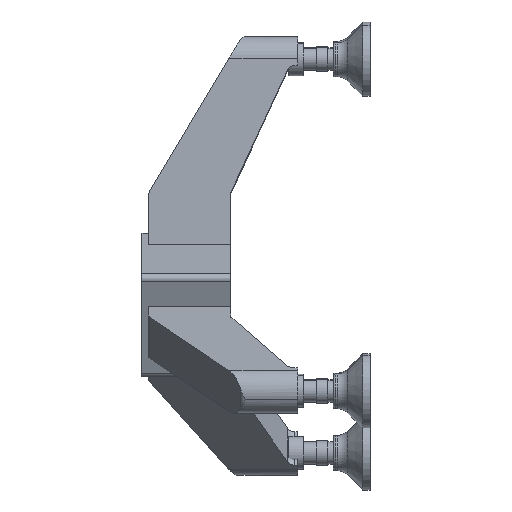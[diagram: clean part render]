
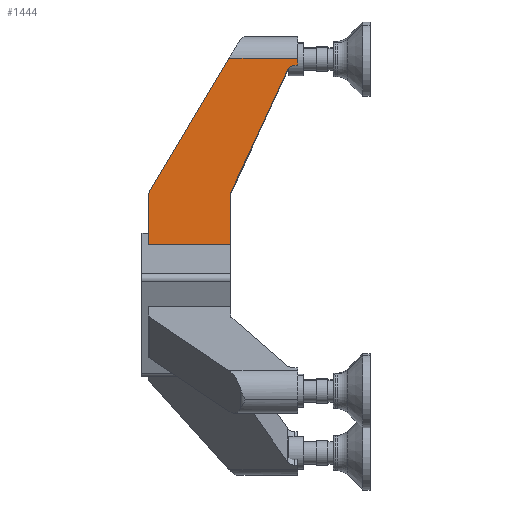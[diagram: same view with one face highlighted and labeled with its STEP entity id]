
A CAD part, left-side view. The second image highlights one B-rep face of the part: STEP entity #1444.
In plain terms, the highlighted planar face has unit normal (-1, 0, 0.025).
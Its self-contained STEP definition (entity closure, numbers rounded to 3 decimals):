
#29 = CARTESIAN_POINT ( 'NONE',  ( 98.312, 67.535, 208.765 ) ) ;
#170 = ORIENTED_EDGE ( 'NONE', *, *, #3434, .F. ) ;
#223 = ORIENTED_EDGE ( 'NONE', *, *, #923, .T. ) ;
#233 = CARTESIAN_POINT ( 'NONE',  ( 98.487, 123.648, 215.763 ) ) ;
#241 = EDGE_CURVE ( 'NONE', #2379, #3822, #2570, .T. ) ;
#256 = CARTESIAN_POINT ( 'NONE',  ( 95.644, 125., 101.798 ) ) ;
#312 = CARTESIAN_POINT ( 'NONE',  ( 97.191, 123.648, 163.816 ) ) ;
#326 = DIRECTION ( 'NONE',  ( 0.025, 0., 1. ) ) ;
#372 = EDGE_LOOP ( 'NONE', ( #3171, #3207, #2734, #223, #1764, #2774, #3923, #170, #3596, #2208 ) ) ;
#438 = CARTESIAN_POINT ( 'NONE',  ( 95.585, 199., 99.423 ) ) ;
#529 = AXIS2_PLACEMENT_3D ( 'NONE', #29, #1283, #1253 ) ;
#532 = DIRECTION ( 'NONE',  ( -0.025, 0., -1. ) ) ;
#578 = DIRECTION ( 'NONE',  ( -0.021, 0.512, -0.859 ) ) ;
#582 = CARTESIAN_POINT ( 'NONE',  ( 94.468, 125., 54.656 ) ) ;
#648 = VERTEX_POINT ( 'NONE', #1566 ) ;
#737 = CARTESIAN_POINT ( 'NONE',  ( 98.636, 65., 221.761 ) ) ;
#774 = VECTOR ( 'NONE', #3267, 1000. ) ;
#789 = CARTESIAN_POINT ( 'NONE',  ( 95.644, 125., 101.798 ) ) ;
#798 = EDGE_CURVE ( 'NONE', #648, #2971, #1425, .T. ) ;
#923 = EDGE_CURVE ( 'NONE', #2399, #1844, #1865, .T. ) ;
#927 = PLANE ( 'NONE',  #1492 ) ;
#963 = VECTOR ( 'NONE', #3030, 1000. ) ;
#1013 = DIRECTION ( 'NONE',  ( 0., 1., 0. ) ) ;
#1022 = VECTOR ( 'NONE', #3122, 1000. ) ;
#1045 = EDGE_CURVE ( 'NONE', #1844, #2379, #2441, .T. ) ;
#1050 = CARTESIAN_POINT ( 'NONE',  ( 95.649, 198.295, 101.981 ) ) ;
#1080 = LINE ( 'NONE', #2221, #3465 ) ;
#1175 = VECTOR ( 'NONE', #1266, 1000. ) ;
#1236 = VERTEX_POINT ( 'NONE', #2569 ) ;
#1253 = DIRECTION ( 'NONE',  ( -0.025, 0., -1. ) ) ;
#1266 = DIRECTION ( 'NONE',  ( 0., 1., 0. ) ) ;
#1283 = DIRECTION ( 'NONE',  ( 1., 0., -0.025 ) ) ;
#1326 = EDGE_CURVE ( 'NONE', #2971, #2411, #3119, .T. ) ;
#1425 = LINE ( 'NONE', #233, #963 ) ;
#1444 = ADVANCED_FACE ( 'NONE', ( #3252 ), #927, .T. ) ;
#1492 = AXIS2_PLACEMENT_3D ( 'NONE', #312, #2460, #326 ) ;
#1527 = CARTESIAN_POINT ( 'NONE',  ( 94.468, 125., 54.656 ) ) ;
#1533 = EDGE_CURVE ( 'NONE', #1236, #648, #2186, .T. ) ;
#1540 = CARTESIAN_POINT ( 'NONE',  ( 98.487, 65., 215.763 ) ) ;
#1566 = CARTESIAN_POINT ( 'NONE',  ( 98.487, 67.535, 215.763 ) ) ;
#1748 = LINE ( 'NONE', #789, #3260 ) ;
#1764 = ORIENTED_EDGE ( 'NONE', *, *, #1045, .T. ) ;
#1789 = EDGE_CURVE ( 'NONE', #2131, #1236, #2179, .T. ) ;
#1844 = VERTEX_POINT ( 'NONE', #1050 ) ;
#1865 = LINE ( 'NONE', #2469, #2661 ) ;
#1899 = CARTESIAN_POINT ( 'NONE',  ( 95.644, 125., 101.798 ) ) ;
#1923 = CARTESIAN_POINT ( 'NONE',  ( 94.468, 199., 54.656 ) ) ;
#1938 = CARTESIAN_POINT ( 'NONE',  ( 98.636, 126.915, 221.761 ) ) ;
#2031 = DIRECTION ( 'NONE',  ( -1., 0., 0.025 ) ) ;
#2083 = VECTOR ( 'NONE', #3484, 1000. ) ;
#2131 = VERTEX_POINT ( 'NONE', #256 ) ;
#2179 = LINE ( 'NONE', #1899, #1022 ) ;
#2186 = CIRCLE ( 'NONE', #529, 7. ) ;
#2208 = ORIENTED_EDGE ( 'NONE', *, *, #1533, .T. ) ;
#2221 = CARTESIAN_POINT ( 'NONE',  ( 98.636, 123.648, 221.761 ) ) ;
#2379 = VERTEX_POINT ( 'NONE', #438 ) ;
#2399 = VERTEX_POINT ( 'NONE', #1938 ) ;
#2411 = VERTEX_POINT ( 'NONE', #737 ) ;
#2441 = CIRCLE ( 'NONE', #3024, 5. ) ;
#2460 = DIRECTION ( 'NONE',  ( -1., 0., 0.025 ) ) ;
#2469 = CARTESIAN_POINT ( 'NONE',  ( 98.636, 126.915, 221.761 ) ) ;
#2569 = CARTESIAN_POINT ( 'NONE',  ( 98.386, 73.882, 211.715 ) ) ;
#2570 = LINE ( 'NONE', #3281, #774 ) ;
#2661 = VECTOR ( 'NONE', #578, 1000. ) ;
#2734 = ORIENTED_EDGE ( 'NONE', *, *, #3133, .T. ) ;
#2774 = ORIENTED_EDGE ( 'NONE', *, *, #241, .T. ) ;
#2971 = VERTEX_POINT ( 'NONE', #1540 ) ;
#3006 = EDGE_CURVE ( 'NONE', #3545, #3822, #3218, .T. ) ;
#3024 = AXIS2_PLACEMENT_3D ( 'NONE', #3223, #2031, #3261 ) ;
#3030 = DIRECTION ( 'NONE',  ( 0., -1., 0. ) ) ;
#3119 = LINE ( 'NONE', #3518, #2083 ) ;
#3122 = DIRECTION ( 'NONE',  ( 0.023, -0.422, 0.907 ) ) ;
#3133 = EDGE_CURVE ( 'NONE', #2411, #2399, #1080, .T. ) ;
#3171 = ORIENTED_EDGE ( 'NONE', *, *, #798, .T. ) ;
#3207 = ORIENTED_EDGE ( 'NONE', *, *, #1326, .T. ) ;
#3218 = LINE ( 'NONE', #1527, #1175 ) ;
#3223 = CARTESIAN_POINT ( 'NONE',  ( 95.585, 194., 99.423 ) ) ;
#3252 = FACE_OUTER_BOUND ( 'NONE', #372, .T. ) ;
#3260 = VECTOR ( 'NONE', #532, 1000. ) ;
#3261 = DIRECTION ( 'NONE',  ( -0.025, 0., -1. ) ) ;
#3267 = DIRECTION ( 'NONE',  ( -0.025, 0., -1. ) ) ;
#3281 = CARTESIAN_POINT ( 'NONE',  ( 97.191, 199., 163.816 ) ) ;
#3434 = EDGE_CURVE ( 'NONE', #2131, #3545, #1748, .T. ) ;
#3465 = VECTOR ( 'NONE', #1013, 1000. ) ;
#3484 = DIRECTION ( 'NONE',  ( 0.025, 0., 1. ) ) ;
#3518 = CARTESIAN_POINT ( 'NONE',  ( 97.191, 65., 163.816 ) ) ;
#3545 = VERTEX_POINT ( 'NONE', #582 ) ;
#3596 = ORIENTED_EDGE ( 'NONE', *, *, #1789, .T. ) ;
#3822 = VERTEX_POINT ( 'NONE', #1923 ) ;
#3923 = ORIENTED_EDGE ( 'NONE', *, *, #3006, .F. ) ;
